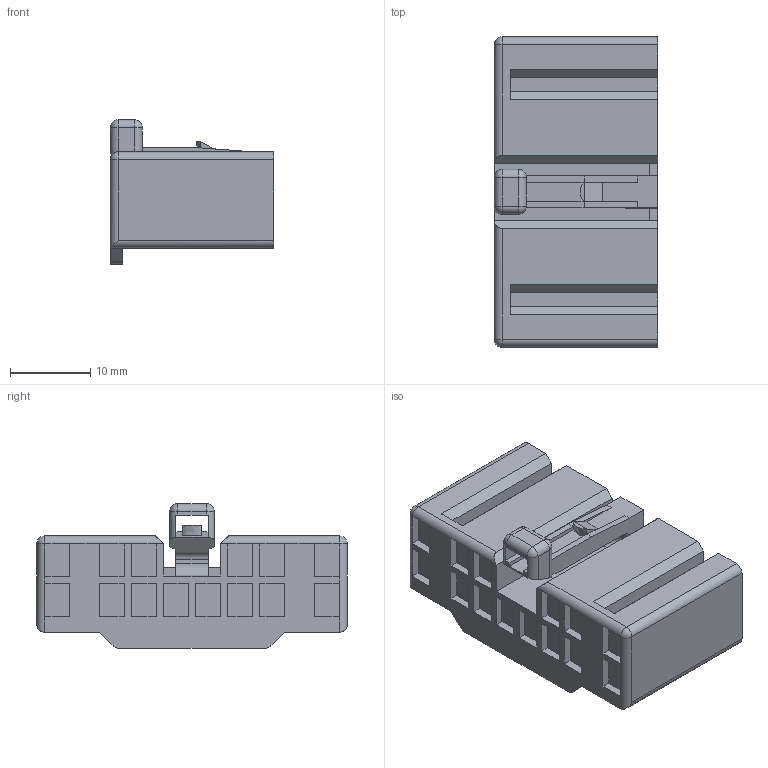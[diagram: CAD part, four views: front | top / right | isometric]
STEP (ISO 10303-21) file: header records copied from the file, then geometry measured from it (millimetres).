
FILE_DESCRIPTION(('CATIA V5 STEP Exchange','CAx-IF Rec.Pracs.--- Model Styling and Organization---1.2---2011-12-15'),'2;1');
FILE_NAME('N:\C-DAM_MyDesk\ENV\900093\6244-5141.stp','2015-01-20T02:08:35+00:00',('none'),('none'),'CATIA Version 5-6 Release 2012 SP4 HF74','CATIA V5 STEP AP214','none');
FILE_SCHEMA(('AUTOMOTIVE_DESIGN { 1 0 10303 214 1 1 1 1 }'));
Length unit declared in the file: millimetre
Products named in the file (1): 6244-5141
Bounding box: 20.4 x 38.7 x 18 mm (x, y, z)
Volume: 8230.2 mm3; surface area: 4317.4 mm2
Topology: 1 solids, 1 shells, 241 faces, 633 edges, 406 vertices
Faces by surface type: plane 214, cylinder 19, sphere 6, bspline 2
Entity records: 6994 total; most frequent: CARTESIAN_POINT 1393, ORIENTED_EDGE 1254, DIRECTION 947, EDGE_CURVE 627, VECTOR 559, LINE 559, VERTEX_POINT 406, EDGE_LOOP 261
